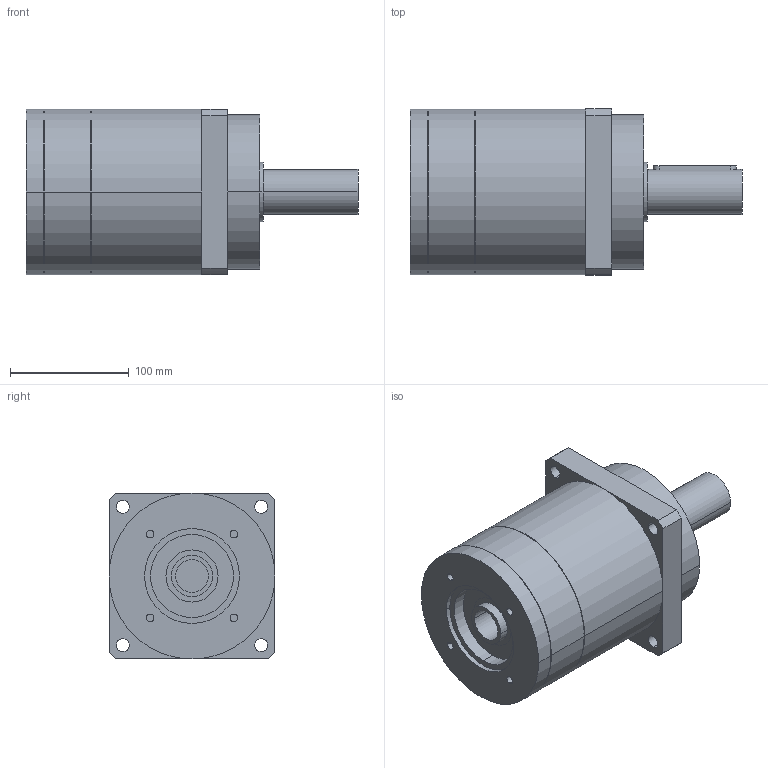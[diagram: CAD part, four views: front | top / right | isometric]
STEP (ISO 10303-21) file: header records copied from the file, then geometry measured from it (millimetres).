
FILE_DESCRIPTION(('CoCreate Modeling STEP Export'),'2;1');
FILE_NAME('GPR150_ig-3-4-5-7_38_B5_28_P02.stp','2014-08-19T16:42:38',(''),(''),'CoCreate Modeling STEP processor for AP214 (Solid Model)','CoCreate Modeling 16.00C 25-Feb-2009 (C) Parametric Technology GmbH','');
FILE_SCHEMA(('AUTOMOTIVE_DESIGN { 1 0 10303 214 1 1 1 1 }'));
Length unit declared in the file: millimetre
Products named in the file (2): GPR150_ig-3-4-5-7_38_B5_28_P02
Assembly tree (1 placements, depth 2):
  GPR150_ig-3-4-5-7_38_B5_28_P02
    GPR150_ig-3-4-5-7_38_B5_28_P02
Bounding box: 280 x 140 x 140 mm (x, y, z)
Volume: 3049725 mm3; surface area: 153945.9 mm2
Topology: 1 solids, 1 shells, 91 faces, 229 edges, 157 vertices
Faces by surface type: cylinder 54, plane 31, cone 6
Entity records: 2387 total; most frequent: ORIENTED_EDGE 454, CARTESIAN_POINT 435, DIRECTION 330, EDGE_CURVE 227, VERTEX_POINT 157, AXIS2_PLACEMENT_3D 124, EDGE_LOOP 118, FACE_OUTER_BOUND 91
